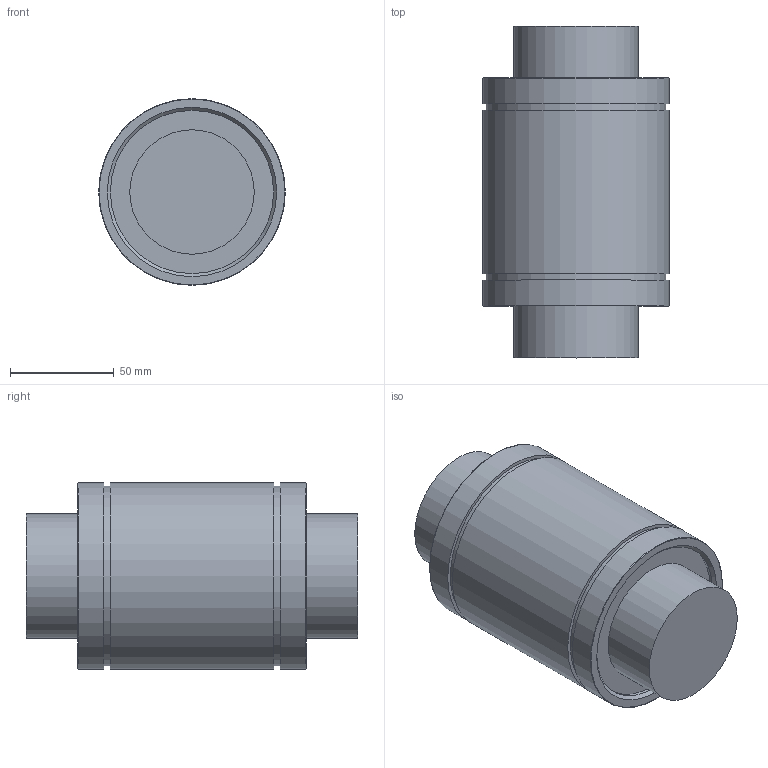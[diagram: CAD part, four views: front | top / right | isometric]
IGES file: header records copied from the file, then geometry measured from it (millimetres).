
Global section: file name: No Iges File Name specified; native system: Autodesk Inventor 2012; preprocessor: AutoDesk Inventor Iges Exporter R2012; author: user2; date: 20130206.100657; units: millimetre
Bounding box: 90 x 160 x 90 mm (x, y, z)
Volume: 825314.1 mm3; surface area: 57258.7 mm2
Topology: 1 solids, 1 shells, 23 faces, 37 edges, 24 vertices
Faces by surface type: plane 10, cylinder 7, revolution 4, torus 2
Full cylindrical faces by diameter (mm): 60 x2, 86.5 x2, 90 x3
